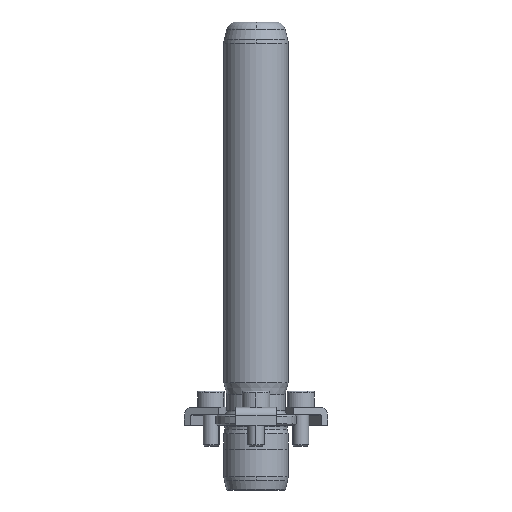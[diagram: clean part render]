
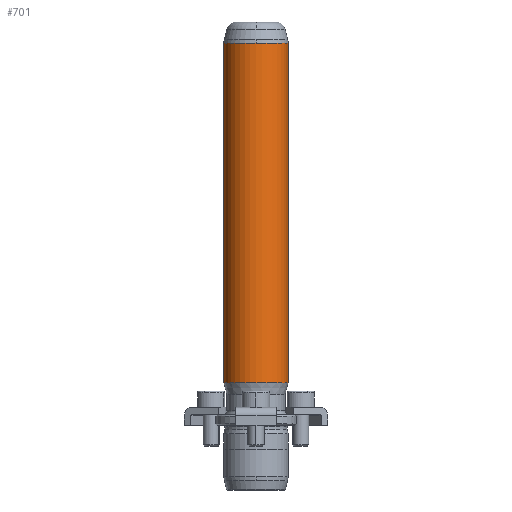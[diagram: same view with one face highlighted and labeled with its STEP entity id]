
A CAD part, front view. The second image highlights one B-rep face of the part: STEP entity #701.
In plain terms, the highlighted cylindrical face has radius 10 mm (diameter 20 mm), a partial arc.
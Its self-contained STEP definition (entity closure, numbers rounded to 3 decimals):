
#614=CARTESIAN_POINT('',(0.0,-10.,118.342));
#615=VERTEX_POINT('',#614);
#642=CARTESIAN_POINT('',(-10.0,0.,118.342));
#643=VERTEX_POINT('',#642);
#651=CARTESIAN_POINT('',(0.0,0.,118.342));
#652=DIRECTION('',(0.0,0.0,1.0));
#653=DIRECTION('',(1.0,0.0,0.0));
#654=AXIS2_PLACEMENT_3D('',#651,#652,#653);
#655=CIRCLE('',#654,10.);
#656=EDGE_CURVE('',#643,#615,#655,.T.);
#661=CARTESIAN_POINT('',(0.0,0.,65.821));
#662=DIRECTION('',(0.0,0.,1.0));
#663=DIRECTION('',(1.0,0.0,0.0));
#664=AXIS2_PLACEMENT_3D('',#661,#662,#663);
#665=CYLINDRICAL_SURFACE('',#664,10.0);
#666=CARTESIAN_POINT('',(10.,0.,118.342));
#667=VERTEX_POINT('',#666);
#668=CARTESIAN_POINT('',(10.0,0.,13.3));
#669=VERTEX_POINT('',#668);
#670=CARTESIAN_POINT('',(10.,0.,118.342));
#671=DIRECTION('',(0.0,0.0,-1.0));
#672=VECTOR('',#671,105.042);
#673=LINE('',#670,#672);
#674=EDGE_CURVE('',#667,#669,#673,.T.);
#675=ORIENTED_EDGE('',*,*,#674,.F.);
#676=CARTESIAN_POINT('',(0.0,0.,118.342));
#677=DIRECTION('',(0.0,0.0,1.0));
#678=DIRECTION('',(1.0,0.0,0.0));
#679=AXIS2_PLACEMENT_3D('',#676,#677,#678);
#680=CIRCLE('',#679,10.);
#681=EDGE_CURVE('',#615,#667,#680,.T.);
#682=ORIENTED_EDGE('',*,*,#681,.F.);
#683=ORIENTED_EDGE('',*,*,#656,.F.);
#684=CARTESIAN_POINT('',(-10.,0.,13.3));
#685=VERTEX_POINT('',#684);
#686=CARTESIAN_POINT('',(-10.0,0.,118.342));
#687=DIRECTION('',(0.0,0.0,-1.0));
#688=VECTOR('',#687,105.042);
#689=LINE('',#686,#688);
#690=EDGE_CURVE('',#643,#685,#689,.T.);
#691=ORIENTED_EDGE('',*,*,#690,.T.);
#692=CARTESIAN_POINT('',(0.0,0.,13.3));
#693=DIRECTION('',(0.0,0.0,1.0));
#694=DIRECTION('',(1.0,0.0,0.0));
#695=AXIS2_PLACEMENT_3D('',#692,#693,#694);
#696=CIRCLE('',#695,10.0);
#697=EDGE_CURVE('',#685,#669,#696,.T.);
#698=ORIENTED_EDGE('',*,*,#697,.T.);
#699=EDGE_LOOP('',(#675,#682,#683,#691,#698));
#700=FACE_OUTER_BOUND('',#699,.T.);
#701=ADVANCED_FACE('',(#700),#665,.T.);
